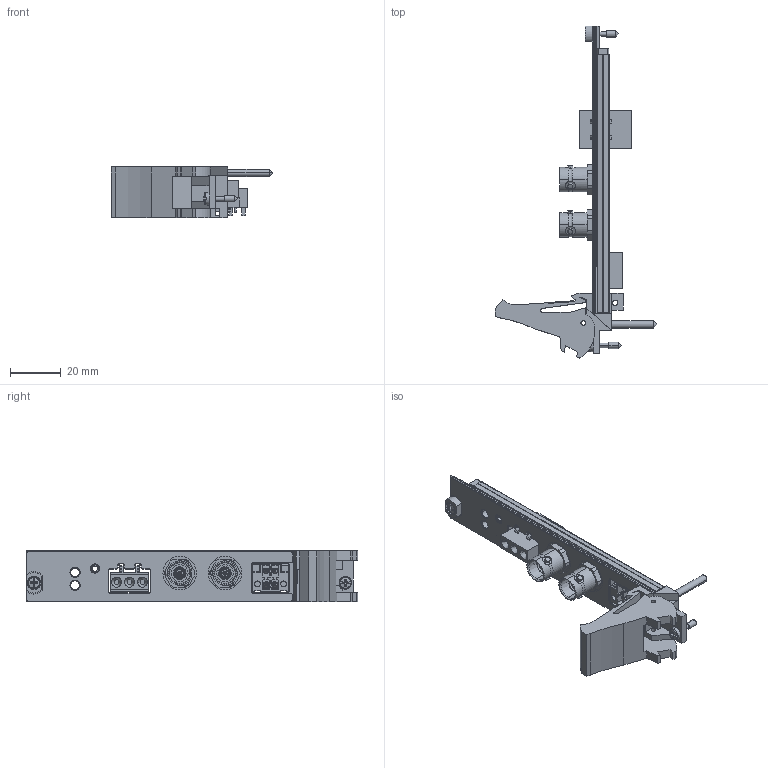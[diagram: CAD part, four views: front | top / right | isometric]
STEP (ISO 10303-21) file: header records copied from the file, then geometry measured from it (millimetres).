
FILE_DESCRIPTION((''),'2;1');
FILE_NAME('CU_PXIE-4135','2015-07-01T',('jjorden'),(''),'PRO/ENGINEER BY PARAMETRIC TECHNOLOGY CORPORATION, 2014000','PRO/ENGINEER BY PARAMETRIC TECHNOLOGY CORPORATION, 2014000','');
FILE_SCHEMA(('CONFIG_CONTROL_DESIGN'));
Length unit declared in the file: inch
Products named in the file (1): CU_PXIE-4135
Bounding box: 63.53 x 130.51 x 20.29 mm (x, y, z)
Volume: 19205.9 mm3; surface area: 20368.4 mm2
Topology: 3 solids, 3 shells, 1340 faces, 3781 edges, 2487 vertices
Faces by surface type: plane 727, cylinder 423, cone 132, bspline 38, torus 12, sphere 8
Entity records: 69369 total; most frequent: CARTESIAN_POINT 35274, ORIENTED_EDGE 7506, DIRECTION 6556, EDGE_CURVE 3753, VERTEX_POINT 2487, VECTOR 2228, LINE 2228, AXIS2_PLACEMENT_3D 2164
